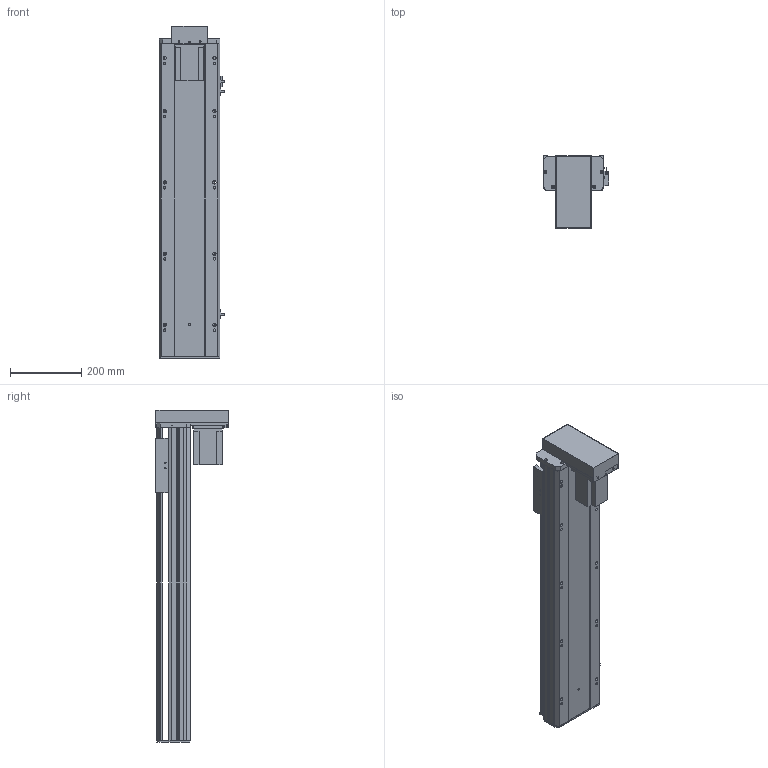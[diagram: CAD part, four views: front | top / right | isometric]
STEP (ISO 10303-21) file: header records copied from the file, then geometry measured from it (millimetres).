
FILE_DESCRIPTION (( 'STEP AP203' ), '1' );
FILE_NAME ('Y170-D10-S650-BM-P750W.STEP', '2020-01-22T03:02:05', ( '微软用户' ), ( '微软中国' ), 'SwSTEP 2.0', 'SolidWorks 2017', '' );
FILE_SCHEMA (( 'CONFIG_CONTROL_DESIGN' ));
Length unit declared in the file: millimetre
Products named in the file (12): Y雄赽釱-耜蚾; Y170-陔遴奻裔-BR; 170-BM耜蚾蟀諉啣; Y170-BM--P750W楊擘啣; -BM俋袗; Y170耜裔--準---; YD-Y100-135-新外置传感挡片(通用）; 170--掛极-BR; Y100-135俋离換覜ん; 侂狟750W; Y170-D10-S650-BM-P750W; EGH20賑輸_蕼偞
Assembly tree (14 placements, depth 2):
  Y170-D10-S650-BM-P750W
    Y170耜裔--準---
    170--掛极-BR
    侂狟750W
    EGH20賑輸_蕼偞  x2
    Y雄赽釱-耜蚾
    Y170-陔遴奻裔-BR
    170-BM耜蚾蟀諉啣
    Y170-BM--P750W楊擘啣
    -BM俋袗
    YD-Y100-135-新外置传感挡片(通用）
    Y100-135俋离換覜ん  x3
Bounding box: 183.5 x 203.5 x 933.5 mm (x, y, z)
Volume: 4756432.2 mm3; surface area: 1597982.3 mm2
Topology: 14 solids, 14 shells, 894 faces, 2508 edges, 1654 vertices
Faces by surface type: cylinder 442, plane 436, cone 16
Entity records: 28106 total; most frequent: CARTESIAN_POINT 4919, DIRECTION 4664, ORIENTED_EDGE 4512, EDGE_CURVE 2256, AXIS2_PLACEMENT_3D 1651, VERTEX_POINT 1498, LINE 1362, VECTOR 1362
